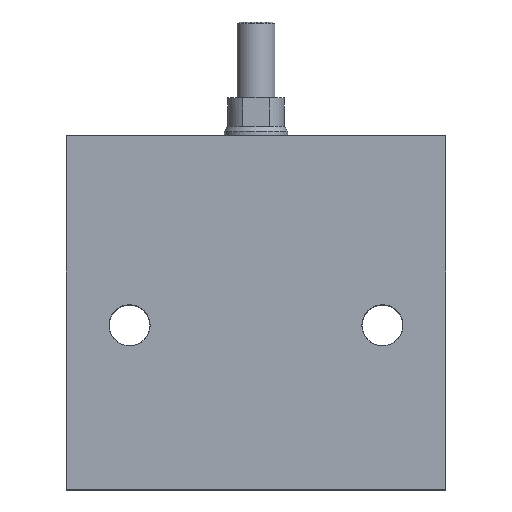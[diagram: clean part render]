
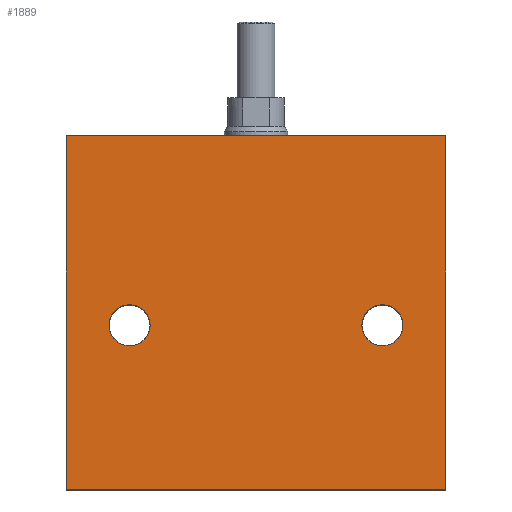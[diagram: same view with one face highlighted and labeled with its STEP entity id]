
A CAD part, top view. The second image highlights one B-rep face of the part: STEP entity #1889.
In plain terms, the highlighted planar face has unit normal (0, 0, 1).
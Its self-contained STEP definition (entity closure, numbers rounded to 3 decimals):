
#27 = VERTEX_POINT ( 'NONE', #2832 ) ;
#46 = CARTESIAN_POINT ( 'NONE',  ( -20., 26., 17.5 ) ) ;
#73 = EDGE_CURVE ( 'NONE', #2388, #27, #2555, .T. ) ;
#80 = CARTESIAN_POINT ( 'NONE',  ( 16.75, 26., 17.5 ) ) ;
#82 = VERTEX_POINT ( 'NONE', #803 ) ;
#97 = DIRECTION ( 'NONE',  ( 0., 0., 1. ) ) ;
#157 = CARTESIAN_POINT ( 'NONE',  ( 30., 40., 17.5 ) ) ;
#158 = VECTOR ( 'NONE', #1091, 1000. ) ;
#249 = VERTEX_POINT ( 'NONE', #2769 ) ;
#257 = EDGE_LOOP ( 'NONE', ( #1178, #1455, #2442, #1170 ) ) ;
#299 = VERTEX_POINT ( 'NONE', #896 ) ;
#311 = CARTESIAN_POINT ( 'NONE',  ( -30., 40., 17.5 ) ) ;
#363 = AXIS2_PLACEMENT_3D ( 'NONE', #311, #2995, #1120 ) ;
#396 = CARTESIAN_POINT ( 'NONE',  ( -30., 0., 17.5 ) ) ;
#528 = FACE_BOUND ( 'NONE', #782, .T. ) ;
#569 = CIRCLE ( 'NONE', #3180, 3.25 ) ;
#627 = DIRECTION ( 'NONE',  ( 0., 0., 1. ) ) ;
#648 = DIRECTION ( 'NONE',  ( 1., 0., 0. ) ) ;
#691 = CARTESIAN_POINT ( 'NONE',  ( 20., 26., 17.5 ) ) ;
#723 = ORIENTED_EDGE ( 'NONE', *, *, #793, .F. ) ;
#763 = CARTESIAN_POINT ( 'NONE',  ( 20., 26., 17.5 ) ) ;
#782 = EDGE_LOOP ( 'NONE', ( #1201, #723 ) ) ;
#793 = EDGE_CURVE ( 'NONE', #1556, #82, #876, .T. ) ;
#799 = CARTESIAN_POINT ( 'NONE',  ( 30., 56., 17.5 ) ) ;
#803 = CARTESIAN_POINT ( 'NONE',  ( -16.75, 26., 17.5 ) ) ;
#846 = PLANE ( 'NONE',  #363 ) ;
#876 = CIRCLE ( 'NONE', #1372, 3.25 ) ;
#896 = CARTESIAN_POINT ( 'NONE',  ( -30., 56., 17.5 ) ) ;
#906 = EDGE_CURVE ( 'NONE', #1367, #249, #3489, .T. ) ;
#1037 = DIRECTION ( 'NONE',  ( 1., 0., 0. ) ) ;
#1091 = DIRECTION ( 'NONE',  ( 1., 0., 0. ) ) ;
#1113 = LINE ( 'NONE', #2261, #2463 ) ;
#1120 = DIRECTION ( 'NONE',  ( -1., 0., 0. ) ) ;
#1170 = ORIENTED_EDGE ( 'NONE', *, *, #2752, .T. ) ;
#1178 = ORIENTED_EDGE ( 'NONE', *, *, #3396, .T. ) ;
#1179 = EDGE_LOOP ( 'NONE', ( #2677, #2200 ) ) ;
#1201 = ORIENTED_EDGE ( 'NONE', *, *, #1539, .F. ) ;
#1213 = DIRECTION ( 'NONE',  ( 0., 0., 1. ) ) ;
#1227 = VERTEX_POINT ( 'NONE', #396 ) ;
#1367 = VERTEX_POINT ( 'NONE', #80 ) ;
#1372 = AXIS2_PLACEMENT_3D ( 'NONE', #46, #97, #1376 ) ;
#1376 = DIRECTION ( 'NONE',  ( 1., 0., 0. ) ) ;
#1455 = ORIENTED_EDGE ( 'NONE', *, *, #73, .F. ) ;
#1539 = EDGE_CURVE ( 'NONE', #82, #1556, #2417, .T. ) ;
#1556 = VERTEX_POINT ( 'NONE', #1704 ) ;
#1704 = CARTESIAN_POINT ( 'NONE',  ( -23.25, 26., 17.5 ) ) ;
#1841 = VECTOR ( 'NONE', #2980, 1000. ) ;
#1889 = ADVANCED_FACE ( 'NONE', ( #3394, #528, #2672 ), #846, .F. ) ;
#2048 = VECTOR ( 'NONE', #3135, 1000. ) ;
#2200 = ORIENTED_EDGE ( 'NONE', *, *, #906, .F. ) ;
#2229 = CARTESIAN_POINT ( 'NONE',  ( -20., 26., 17.5 ) ) ;
#2261 = CARTESIAN_POINT ( 'NONE',  ( -30., 0., 17.5 ) ) ;
#2313 = EDGE_CURVE ( 'NONE', #249, #1367, #569, .T. ) ;
#2381 = LINE ( 'NONE', #2703, #158 ) ;
#2388 = VERTEX_POINT ( 'NONE', #799 ) ;
#2413 = EDGE_CURVE ( 'NONE', #299, #2388, #2381, .T. ) ;
#2417 = CIRCLE ( 'NONE', #3092, 3.25 ) ;
#2442 = ORIENTED_EDGE ( 'NONE', *, *, #2413, .F. ) ;
#2463 = VECTOR ( 'NONE', #648, 1000. ) ;
#2499 = DIRECTION ( 'NONE',  ( 1., 0., 0. ) ) ;
#2555 = LINE ( 'NONE', #157, #1841 ) ;
#2584 = CARTESIAN_POINT ( 'NONE',  ( -30., 40., 17.5 ) ) ;
#2653 = DIRECTION ( 'NONE',  ( 0., 0., 1. ) ) ;
#2672 = FACE_OUTER_BOUND ( 'NONE', #257, .T. ) ;
#2677 = ORIENTED_EDGE ( 'NONE', *, *, #2313, .F. ) ;
#2703 = CARTESIAN_POINT ( 'NONE',  ( -30., 56., 17.5 ) ) ;
#2752 = EDGE_CURVE ( 'NONE', #299, #1227, #2848, .T. ) ;
#2769 = CARTESIAN_POINT ( 'NONE',  ( 23.25, 26., 17.5 ) ) ;
#2832 = CARTESIAN_POINT ( 'NONE',  ( 30., 0., 17.5 ) ) ;
#2848 = LINE ( 'NONE', #2584, #2048 ) ;
#2980 = DIRECTION ( 'NONE',  ( 0., -1., 0. ) ) ;
#2981 = DIRECTION ( 'NONE',  ( 1., 0., 0. ) ) ;
#2995 = DIRECTION ( 'NONE',  ( 0., 0., -1. ) ) ;
#3092 = AXIS2_PLACEMENT_3D ( 'NONE', #2229, #627, #2499 ) ;
#3135 = DIRECTION ( 'NONE',  ( 0., -1., 0. ) ) ;
#3180 = AXIS2_PLACEMENT_3D ( 'NONE', #763, #2653, #1037 ) ;
#3191 = AXIS2_PLACEMENT_3D ( 'NONE', #691, #1213, #2981 ) ;
#3394 = FACE_BOUND ( 'NONE', #1179, .T. ) ;
#3396 = EDGE_CURVE ( 'NONE', #1227, #27, #1113, .T. ) ;
#3489 = CIRCLE ( 'NONE', #3191, 3.25 ) ;
